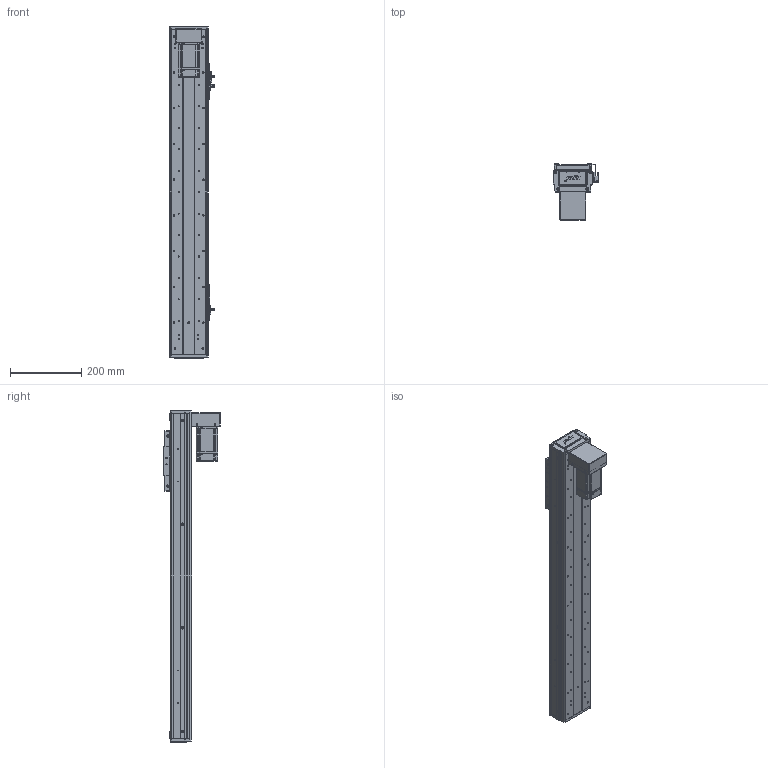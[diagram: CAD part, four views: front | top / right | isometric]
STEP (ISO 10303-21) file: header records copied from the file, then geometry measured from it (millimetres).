
FILE_DESCRIPTION (( 'STEP AP203' ), '1' );
FILE_NAME ('RY100FS-L1620-300-BK(15双轨).SLDASM_650.step', '2021-03-02T07:33:48', ( '盈信电脑' ), ( '东莞市道滘镇水果街19号' ), 'SwSTEP 2.0', 'SolidWorks 2012', '' );
FILE_SCHEMA (( 'CONFIG_CONTROL_DESIGN' ));
Length unit declared in the file: millimetre
Products named in the file (21): RY100FS-双轨铝滑块(上板）; RY100FS-300-BK15邧寢祥凄詩湍_650; RY100FS-300-BK15絳寢倰第奻裔啣_650; RY100FS-300-BK15絳寢倰第菁釱_650; RY100F-詩湍揤踡謫; RY100F-詩湍幗謫粣; RY100F-滅鳥裔啣; 棠沺沭; 1; RY100FS-L1620-300-BK(15邧寢).SLDASM_650; RY100FS-15双轨下折钢带安装板; 滅袉蝶18-15; RY100FS-双轨螺母座(16丝杆）; 蚥薯蝶紫輸; RY100FS-15邧寢狟殏萇儂欶; RY100FS-15邧寢狟殏萇儂啣; RY100F-詩湍揤踡輸; 覜茼ん672; 672嫖萇羲壽假蚾釱; RY80俋离覜茼え; RY100F-綴裔啣
Assembly tree (30 placements, depth 2):
  RY100FS-L1620-300-BK(15邧寢).SLDASM_650
    RY100FS-300-BK15絳寢倰第菁釱_650
    RY100FS-300-BK15絳寢倰第奻裔啣_650  x2
    RY100FS-300-BK15邧寢祥凄詩湍_650
    RY100FS-双轨铝滑块(上板）
    RY100F-滅鳥裔啣
    棠沺沭  x2
    RY100F-詩湍幗謫粣
    RY100F-詩湍揤踡謫  x2
    RY100F-綴裔啣  x2
    672嫖萇羲壽假蚾釱  x2
    RY80俋离覜茼え  x2
    覜茼ん672  x3
    RY100F-詩湍揤踡輸  x2
    RY100FS-双轨螺母座(16丝杆）
    RY100FS-15邧寢狟殏萇儂啣
    RY100FS-15邧寢狟殏萇儂欶
    蚥薯蝶紫輸
    RY100FS-15双轨下折钢带安装板
    滅袉蝶18-15  x2
    1
Bounding box: 126.2 x 158.5 x 929 mm (x, y, z)
Volume: 2311456.4 mm3; surface area: 963183.2 mm2
Topology: 30 solids, 30 shells, 2265 faces, 6180 edges, 4022 vertices
Faces by surface type: plane 1095, cylinder 1002, cone 132, bspline 36
Entity records: 61620 total; most frequent: CARTESIAN_POINT 13010, DIRECTION 9619, ORIENTED_EDGE 9600, EDGE_CURVE 4800, AXIS2_PLACEMENT_3D 3375, VERTEX_POINT 3160, LINE 2869, VECTOR 2869
